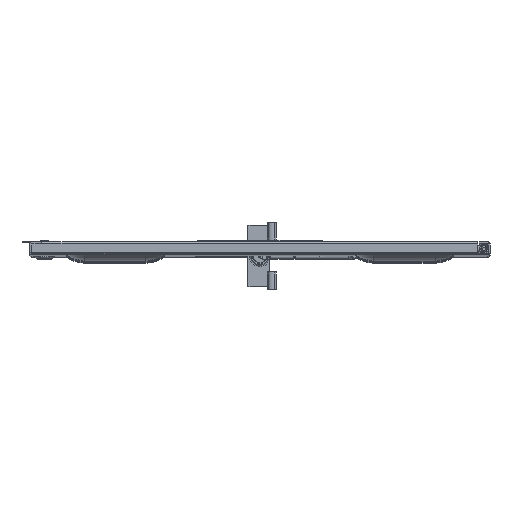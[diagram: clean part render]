
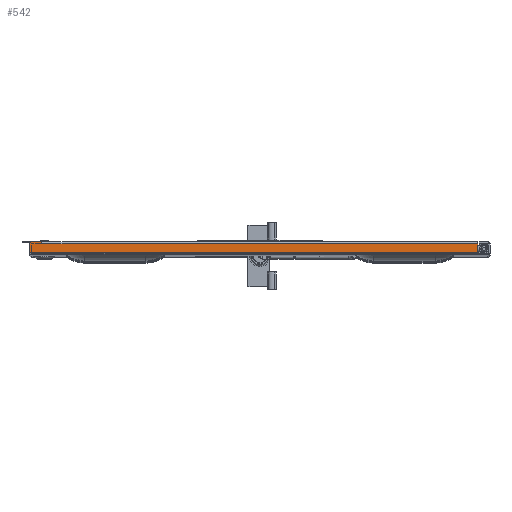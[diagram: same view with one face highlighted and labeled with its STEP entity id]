
A CAD part, top view. The second image highlights one B-rep face of the part: STEP entity #542.
In plain terms, the highlighted planar face has unit normal (0, 0, 1).
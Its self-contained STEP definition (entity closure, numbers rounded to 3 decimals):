
#542 = ADVANCED_FACE( '', ( #1469 ), #1470, .T. );
#1469 = FACE_OUTER_BOUND( '', #3565, .T. );
#1470 = PLANE( '', #3566 );
#3565 = EDGE_LOOP( '', ( #6041, #6042, #6043, #6044, #6045, #6046, #6047, #6048, #6049 ) );
#3566 = AXIS2_PLACEMENT_3D( '', #6050, #6051, #6052 );
#6041 = ORIENTED_EDGE( '', *, *, #12221, .T. );
#6042 = ORIENTED_EDGE( '', *, *, #12206, .T. );
#6043 = ORIENTED_EDGE( '', *, *, #12196, .T. );
#6044 = ORIENTED_EDGE( '', *, *, #12226, .T. );
#6045 = ORIENTED_EDGE( '', *, *, #12227, .T. );
#6046 = ORIENTED_EDGE( '', *, *, #12228, .T. );
#6047 = ORIENTED_EDGE( '', *, *, #12229, .T. );
#6048 = ORIENTED_EDGE( '', *, *, #12217, .F. );
#6049 = ORIENTED_EDGE( '', *, *, #12214, .T. );
#6050 = CARTESIAN_POINT( '', ( -239.205, 1.181, 708.025 ) );
#6051 = DIRECTION( '', ( 0., 0., 1. ) );
#6052 = DIRECTION( '', ( 0., -1., 0. ) );
#12196 = EDGE_CURVE( '', #14540, #14538, #14541, .T. );
#12206 = EDGE_CURVE( '', #14552, #14540, #14555, .T. );
#12214 = EDGE_CURVE( '', #14570, #14567, #14571, .T. );
#12217 = EDGE_CURVE( '', #14570, #14575, #14576, .T. );
#12221 = EDGE_CURVE( '', #14567, #14552, #14581, .T. );
#12226 = EDGE_CURVE( '', #14538, #14589, #14590, .T. );
#12227 = EDGE_CURVE( '', #14589, #14591, #14592, .T. );
#12228 = EDGE_CURVE( '', #14591, #14593, #14594, .T. );
#12229 = EDGE_CURVE( '', #14593, #14575, #14595, .T. );
#14538 = VERTEX_POINT( '', #18520 );
#14540 = VERTEX_POINT( '', #18522 );
#14541 = LINE( '', #18523, #18524 );
#14552 = VERTEX_POINT( '', #18555 );
#14555 = LINE( '', #18576, #18577 );
#14567 = VERTEX_POINT( '', #18595 );
#14570 = VERTEX_POINT( '', #18599 );
#14571 = LINE( '', #18600, #18601 );
#14575 = VERTEX_POINT( '', #18607 );
#14576 = LINE( '', #18608, #18609 );
#14581 = CIRCLE( '', #18616, 1.08 );
#14589 = VERTEX_POINT( '', #18628 );
#14590 = LINE( '', #18629, #18630 );
#14591 = VERTEX_POINT( '', #18631 );
#14592 = LINE( '', #18632, #18633 );
#14593 = VERTEX_POINT( '', #18634 );
#14594 = LINE( '', #18635, #18636 );
#14595 = LINE( '', #18637, #18638 );
#18520 = CARTESIAN_POINT( '', ( 226.505, 11.309, 708.025 ) );
#18522 = CARTESIAN_POINT( '', ( 226.505, 2.184, 708.025 ) );
#18523 = CARTESIAN_POINT( '', ( 226.505, 1.181, 708.025 ) );
#18524 = VECTOR( '', #22754, 1000. );
#18555 = CARTESIAN_POINT( '', ( -237.626, 2.184, 708.025 ) );
#18576 = CARTESIAN_POINT( '', ( -239.205, 2.184, 708.025 ) );
#18577 = VECTOR( '', #22767, 1000. );
#18595 = CARTESIAN_POINT( '', ( -238.421, 2.184, 708.025 ) );
#18599 = CARTESIAN_POINT( '', ( -239.205, 2.184, 708.025 ) );
#18600 = CARTESIAN_POINT( '', ( -239.205, 2.184, 708.025 ) );
#18601 = VECTOR( '', #22781, 1000. );
#18607 = CARTESIAN_POINT( '', ( -239.205, 13.494, 708.025 ) );
#18608 = CARTESIAN_POINT( '', ( -239.205, 1.181, 708.025 ) );
#18609 = VECTOR( '', #22784, 1000. );
#18616 = AXIS2_PLACEMENT_3D( '', #22790, #22791, #22792 );
#18628 = CARTESIAN_POINT( '', ( -226.505, 11.309, 708.025 ) );
#18629 = CARTESIAN_POINT( '', ( -226.505, 11.309, 708.025 ) );
#18630 = VECTOR( '', #22797, 1000. );
#18631 = CARTESIAN_POINT( '', ( -227.267, 11.309, 708.025 ) );
#18632 = CARTESIAN_POINT( '', ( -226.505, 11.309, 708.025 ) );
#18633 = VECTOR( '', #22798, 1000. );
#18634 = CARTESIAN_POINT( '', ( -227.267, 13.494, 708.025 ) );
#18635 = CARTESIAN_POINT( '', ( -227.267, 11.309, 708.025 ) );
#18636 = VECTOR( '', #22799, 1000. );
#18637 = CARTESIAN_POINT( '', ( 226.505, 13.494, 708.025 ) );
#18638 = VECTOR( '', #22800, 1000. );
#22754 = DIRECTION( '', ( 0., 1., 0. ) );
#22767 = DIRECTION( '', ( 1., 0., 0. ) );
#22781 = DIRECTION( '', ( 1., 0., 0. ) );
#22784 = DIRECTION( '', ( 0., 1., 0. ) );
#22790 = CARTESIAN_POINT( '', ( -238.024, 1.181, 708.025 ) );
#22791 = DIRECTION( '', ( 0., 0., -1. ) );
#22792 = DIRECTION( '', ( -1., 0., 0. ) );
#22797 = DIRECTION( '', ( -1., 0., 0. ) );
#22798 = DIRECTION( '', ( -1., 0., 0. ) );
#22799 = DIRECTION( '', ( 0., 1., 0. ) );
#22800 = DIRECTION( '', ( -1., 0., 0. ) );
